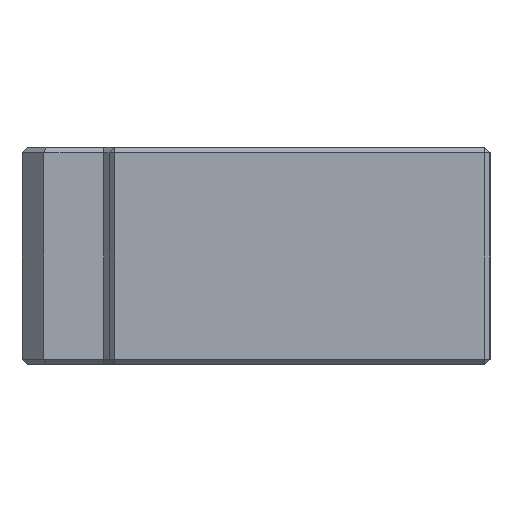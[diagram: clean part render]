
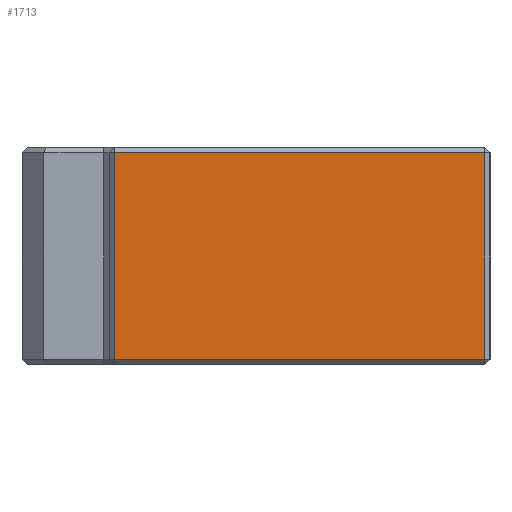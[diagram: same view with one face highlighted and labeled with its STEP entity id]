
A CAD part, left-side view. The second image highlights one B-rep face of the part: STEP entity #1713.
In plain terms, the highlighted planar face has unit normal (-1, 0, 0).
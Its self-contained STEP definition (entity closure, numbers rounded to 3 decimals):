
#1713 = ADVANCED_FACE ( 'NONE', ( #3662 ), #3661, .F. ) ;
#1714 = EDGE_LOOP ( 'NONE', ( #1715, #1719, #1722, #1725 ) ) ;
#1715 = ORIENTED_EDGE ( 'NONE', *, *, #1716, .T. ) ;
#1716 = EDGE_CURVE ( 'NONE', #1717, #1718, #3574, .T. ) ;
#1717 = VERTEX_POINT ( 'NONE', #3552 ) ;
#1718 = VERTEX_POINT ( 'NONE', #3551 ) ;
#1719 = ORIENTED_EDGE ( 'NONE', *, *, #1720, .T. ) ;
#1720 = EDGE_CURVE ( 'NONE', #1718, #1721, #3550, .T. ) ;
#1721 = VERTEX_POINT ( 'NONE', #3546 ) ;
#1722 = ORIENTED_EDGE ( 'NONE', *, *, #1723, .T. ) ;
#1723 = EDGE_CURVE ( 'NONE', #1721, #1724, #3545, .T. ) ;
#1724 = VERTEX_POINT ( 'NONE', #3541 ) ;
#1725 = ORIENTED_EDGE ( 'NONE', *, *, #1731, .T. ) ;
#1731 = EDGE_CURVE ( 'NONE', #1724, #1717, #3800, .T. ) ;
#3541 = CARTESIAN_POINT ( 'NONE',  ( -35., 34.5, 9.5 ) ) ;
#3542 = DIRECTION ( 'NONE',  ( 0., 1., 0. ) ) ;
#3543 = VECTOR ( 'NONE', #3542, 1000. ) ;
#3544 = CARTESIAN_POINT ( 'NONE',  ( -35., 0., 9.5 ) ) ;
#3545 = LINE ( 'NONE', #3544, #3543 ) ;
#3546 = CARTESIAN_POINT ( 'NONE',  ( -35., 0.5, 9.5 ) ) ;
#3547 = DIRECTION ( 'NONE',  ( 0., 0., 1. ) ) ;
#3548 = VECTOR ( 'NONE', #3547, 1000. ) ;
#3549 = CARTESIAN_POINT ( 'NONE',  ( -35., 0.5, 10. ) ) ;
#3550 = LINE ( 'NONE', #3549, #3548 ) ;
#3551 = CARTESIAN_POINT ( 'NONE',  ( -35., 0.5, -9.5 ) ) ;
#3552 = CARTESIAN_POINT ( 'NONE',  ( -35., 34.5, -9.5 ) ) ;
#3553 = DIRECTION ( 'NONE',  ( 0., -1., 0. ) ) ;
#3554 = VECTOR ( 'NONE', #3553, 1000. ) ;
#3555 = CARTESIAN_POINT ( 'NONE',  ( -35., 0., -9.5 ) ) ;
#3570 = DIRECTION ( 'NONE',  ( 0., 0., -1. ) ) ;
#3571 = DIRECTION ( 'NONE',  ( 1., 0., 0. ) ) ;
#3572 = CARTESIAN_POINT ( 'NONE',  ( -35., 0., 10. ) ) ;
#3573 = AXIS2_PLACEMENT_3D ( 'NONE', #3572, #3571, #3570 ) ;
#3574 = LINE ( 'NONE', #3555, #3554 ) ;
#3661 = PLANE ( 'NONE',  #3573 ) ;
#3662 = FACE_OUTER_BOUND ( 'NONE', #1714, .T. ) ;
#3800 = LINE ( 'NONE', #3809, #3808 ) ;
#3807 = DIRECTION ( 'NONE',  ( 0., 0., -1. ) ) ;
#3808 = VECTOR ( 'NONE', #3807, 1000. ) ;
#3809 = CARTESIAN_POINT ( 'NONE',  ( -35., 34.5, 10. ) ) ;
